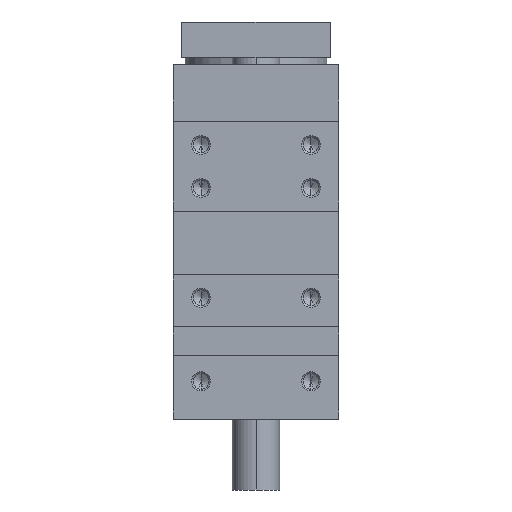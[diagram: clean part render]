
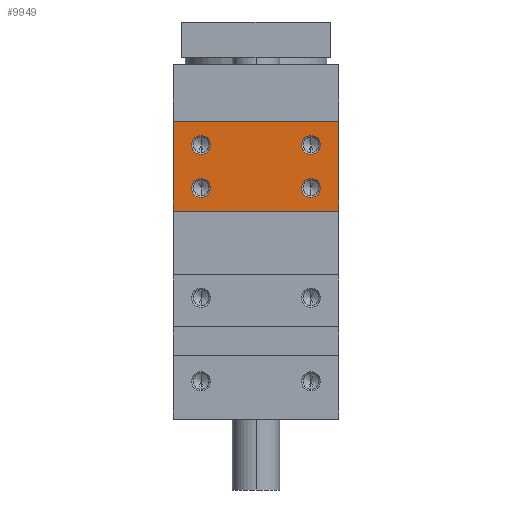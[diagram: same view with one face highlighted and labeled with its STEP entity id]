
A CAD part, left-side view. The second image highlights one B-rep face of the part: STEP entity #9949.
In plain terms, the highlighted planar face has unit normal (-1, 0, 0).
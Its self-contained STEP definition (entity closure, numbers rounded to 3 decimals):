
#6 = CARTESIAN_POINT ( 'NONE',  ( -68.5, 35., 9. ) ) ;
#230 = CARTESIAN_POINT ( 'NONE',  ( -68.5, 35., -79. ) ) ;
#239 = DIRECTION ( 'NONE',  ( 0., 0., -1. ) ) ;
#272 = DIRECTION ( 'NONE',  ( 0., 0., -1. ) ) ;
#274 = FACE_BOUND ( 'NONE', #1353, .T. ) ;
#281 = CARTESIAN_POINT ( 'NONE',  ( -68.5, 23.25, 18.8 ) ) ;
#365 = EDGE_CURVE ( 'NONE', #6112, #9273, #9609, .T. ) ;
#373 = VERTEX_POINT ( 'NONE', #5424 ) ;
#479 = EDGE_CURVE ( 'NONE', #7817, #2708, #9401, .T. ) ;
#506 = EDGE_CURVE ( 'NONE', #6273, #8503, #8304, .T. ) ;
#607 = CARTESIAN_POINT ( 'NONE',  ( -68.5, 35., 47. ) ) ;
#838 = DIRECTION ( 'NONE',  ( 0., -1., 0. ) ) ;
#856 = DIRECTION ( 'NONE',  ( 0., 0., -1. ) ) ;
#878 = LINE ( 'NONE', #4320, #4873 ) ;
#935 = DIRECTION ( 'NONE',  ( 0., 0., 1. ) ) ;
#987 = DIRECTION ( 'NONE',  ( 0., 0., -1. ) ) ;
#1023 = CIRCLE ( 'NONE', #5914, 4. ) ;
#1140 = FACE_BOUND ( 'NONE', #3547, .T. ) ;
#1203 = DIRECTION ( 'NONE',  ( 0., 0., -1. ) ) ;
#1215 = VERTEX_POINT ( 'NONE', #10532 ) ;
#1232 = CIRCLE ( 'NONE', #6306, 4. ) ;
#1353 = EDGE_LOOP ( 'NONE', ( #5945, #10091 ) ) ;
#1373 = LINE ( 'NONE', #4725, #9678 ) ;
#1507 = ORIENTED_EDGE ( 'NONE', *, *, #10398, .T. ) ;
#1634 = ORIENTED_EDGE ( 'NONE', *, *, #365, .F. ) ;
#1976 = CARTESIAN_POINT ( 'NONE',  ( -68.5, -23.25, 33. ) ) ;
#2022 = CARTESIAN_POINT ( 'NONE',  ( -68.5, 70., 47. ) ) ;
#2083 = CARTESIAN_POINT ( 'NONE',  ( -68.5, 23.25, 33. ) ) ;
#2113 = AXIS2_PLACEMENT_3D ( 'NONE', #3426, #2538, #856 ) ;
#2294 = DIRECTION ( 'NONE',  ( 1., 0., 0. ) ) ;
#2375 = ORIENTED_EDGE ( 'NONE', *, *, #3542, .T. ) ;
#2521 = ORIENTED_EDGE ( 'NONE', *, *, #5449, .T. ) ;
#2538 = DIRECTION ( 'NONE',  ( 1., 0., 0. ) ) ;
#2663 = CARTESIAN_POINT ( 'NONE',  ( -68.5, 23.25, 22.8 ) ) ;
#2668 = DIRECTION ( 'NONE',  ( 1., 0., 0. ) ) ;
#2708 = VERTEX_POINT ( 'NONE', #2083 ) ;
#2821 = ORIENTED_EDGE ( 'NONE', *, *, #506, .T. ) ;
#3051 = AXIS2_PLACEMENT_3D ( 'NONE', #281, #5371, #4546 ) ;
#3074 = DIRECTION ( 'NONE',  ( 0., 0., 1. ) ) ;
#3392 = EDGE_CURVE ( 'NONE', #8503, #9273, #1373, .T. ) ;
#3426 = CARTESIAN_POINT ( 'NONE',  ( -68.5, -23.25, 37. ) ) ;
#3460 = CARTESIAN_POINT ( 'NONE',  ( -68.5, -23.25, 22.8 ) ) ;
#3542 = EDGE_CURVE ( 'NONE', #9876, #373, #1232, .T. ) ;
#3547 = EDGE_LOOP ( 'NONE', ( #6541, #6512 ) ) ;
#3780 = CARTESIAN_POINT ( 'NONE',  ( -68.5, -35., 9. ) ) ;
#3937 = CIRCLE ( 'NONE', #3051, 4. ) ;
#3951 = CARTESIAN_POINT ( 'NONE',  ( -68.5, 70., 9. ) ) ;
#4203 = AXIS2_PLACEMENT_3D ( 'NONE', #6720, #9247, #10187 ) ;
#4320 = CARTESIAN_POINT ( 'NONE',  ( -68.5, 35., -79. ) ) ;
#4381 = PLANE ( 'NONE',  #9244 ) ;
#4536 = FACE_BOUND ( 'NONE', #5764, .T. ) ;
#4546 = DIRECTION ( 'NONE',  ( 0., 0., -1. ) ) ;
#4574 = CIRCLE ( 'NONE', #2113, 4. ) ;
#4725 = CARTESIAN_POINT ( 'NONE',  ( -68.5, -35., -79. ) ) ;
#4733 = VECTOR ( 'NONE', #5478, 1000. ) ;
#4873 = VECTOR ( 'NONE', #935, 1000. ) ;
#4887 = ORIENTED_EDGE ( 'NONE', *, *, #9578, .T. ) ;
#5084 = VERTEX_POINT ( 'NONE', #2663 ) ;
#5352 = EDGE_LOOP ( 'NONE', ( #4887, #2521 ) ) ;
#5371 = DIRECTION ( 'NONE',  ( 1., 0., 0. ) ) ;
#5375 = CARTESIAN_POINT ( 'NONE',  ( -68.5, 23.25, 37. ) ) ;
#5394 = ORIENTED_EDGE ( 'NONE', *, *, #3392, .T. ) ;
#5424 = CARTESIAN_POINT ( 'NONE',  ( -68.5, -23.25, 14.8 ) ) ;
#5449 = EDGE_CURVE ( 'NONE', #1215, #5084, #6992, .T. ) ;
#5478 = DIRECTION ( 'NONE',  ( 0., -1., 0. ) ) ;
#5547 = CIRCLE ( 'NONE', #6957, 4. ) ;
#5568 = VERTEX_POINT ( 'NONE', #1976 ) ;
#5764 = EDGE_LOOP ( 'NONE', ( #2375, #1507 ) ) ;
#5771 = CARTESIAN_POINT ( 'NONE',  ( -68.5, -35., 47. ) ) ;
#5914 = AXIS2_PLACEMENT_3D ( 'NONE', #6078, #10318, #272 ) ;
#5945 = ORIENTED_EDGE ( 'NONE', *, *, #479, .T. ) ;
#6078 = CARTESIAN_POINT ( 'NONE',  ( -68.5, 23.25, 37. ) ) ;
#6112 = VERTEX_POINT ( 'NONE', #607 ) ;
#6182 = DIRECTION ( 'NONE',  ( 1., 0., 0. ) ) ;
#6192 = DIRECTION ( 'NONE',  ( 1., 0., 0. ) ) ;
#6273 = VERTEX_POINT ( 'NONE', #6 ) ;
#6306 = AXIS2_PLACEMENT_3D ( 'NONE', #8532, #6192, #239 ) ;
#6466 = CARTESIAN_POINT ( 'NONE',  ( -68.5, -23.25, 37. ) ) ;
#6512 = ORIENTED_EDGE ( 'NONE', *, *, #6762, .T. ) ;
#6541 = ORIENTED_EDGE ( 'NONE', *, *, #10319, .T. ) ;
#6717 = ORIENTED_EDGE ( 'NONE', *, *, #10372, .F. ) ;
#6720 = CARTESIAN_POINT ( 'NONE',  ( -68.5, 23.25, 18.8 ) ) ;
#6762 = EDGE_CURVE ( 'NONE', #5568, #10511, #4574, .T. ) ;
#6943 = VECTOR ( 'NONE', #838, 1000. ) ;
#6957 = AXIS2_PLACEMENT_3D ( 'NONE', #6466, #2294, #8829 ) ;
#6992 = CIRCLE ( 'NONE', #4203, 4. ) ;
#7539 = EDGE_LOOP ( 'NONE', ( #5394, #1634, #6717, #2821 ) ) ;
#7719 = CARTESIAN_POINT ( 'NONE',  ( -68.5, -23.25, 18.8 ) ) ;
#7779 = DIRECTION ( 'NONE',  ( 0., 1., 0. ) ) ;
#7817 = VERTEX_POINT ( 'NONE', #9801 ) ;
#8304 = LINE ( 'NONE', #3951, #6943 ) ;
#8363 = AXIS2_PLACEMENT_3D ( 'NONE', #5375, #8727, #1203 ) ;
#8382 = AXIS2_PLACEMENT_3D ( 'NONE', #7719, #2668, #987 ) ;
#8503 = VERTEX_POINT ( 'NONE', #3780 ) ;
#8532 = CARTESIAN_POINT ( 'NONE',  ( -68.5, -23.25, 18.8 ) ) ;
#8665 = FACE_BOUND ( 'NONE', #5352, .T. ) ;
#8727 = DIRECTION ( 'NONE',  ( 1., 0., 0. ) ) ;
#8750 = CARTESIAN_POINT ( 'NONE',  ( -68.5, -23.25, 41. ) ) ;
#8782 = EDGE_CURVE ( 'NONE', #2708, #7817, #1023, .T. ) ;
#8829 = DIRECTION ( 'NONE',  ( 0., 0., -1. ) ) ;
#9244 = AXIS2_PLACEMENT_3D ( 'NONE', #230, #6182, #7779 ) ;
#9247 = DIRECTION ( 'NONE',  ( 1., 0., 0. ) ) ;
#9273 = VERTEX_POINT ( 'NONE', #5771 ) ;
#9401 = CIRCLE ( 'NONE', #8363, 4. ) ;
#9535 = FACE_OUTER_BOUND ( 'NONE', #7539, .T. ) ;
#9578 = EDGE_CURVE ( 'NONE', #5084, #1215, #3937, .T. ) ;
#9597 = CIRCLE ( 'NONE', #8382, 4. ) ;
#9609 = LINE ( 'NONE', #2022, #4733 ) ;
#9678 = VECTOR ( 'NONE', #3074, 1000. ) ;
#9801 = CARTESIAN_POINT ( 'NONE',  ( -68.5, 23.25, 41. ) ) ;
#9876 = VERTEX_POINT ( 'NONE', #3460 ) ;
#9949 = ADVANCED_FACE ( 'NONE', ( #9535, #8665, #4536, #274, #1140 ), #4381, .F. ) ;
#10091 = ORIENTED_EDGE ( 'NONE', *, *, #8782, .T. ) ;
#10187 = DIRECTION ( 'NONE',  ( 0., 0., -1. ) ) ;
#10318 = DIRECTION ( 'NONE',  ( 1., 0., 0. ) ) ;
#10319 = EDGE_CURVE ( 'NONE', #10511, #5568, #5547, .T. ) ;
#10372 = EDGE_CURVE ( 'NONE', #6273, #6112, #878, .T. ) ;
#10398 = EDGE_CURVE ( 'NONE', #373, #9876, #9597, .T. ) ;
#10511 = VERTEX_POINT ( 'NONE', #8750 ) ;
#10532 = CARTESIAN_POINT ( 'NONE',  ( -68.5, 23.25, 14.8 ) ) ;
